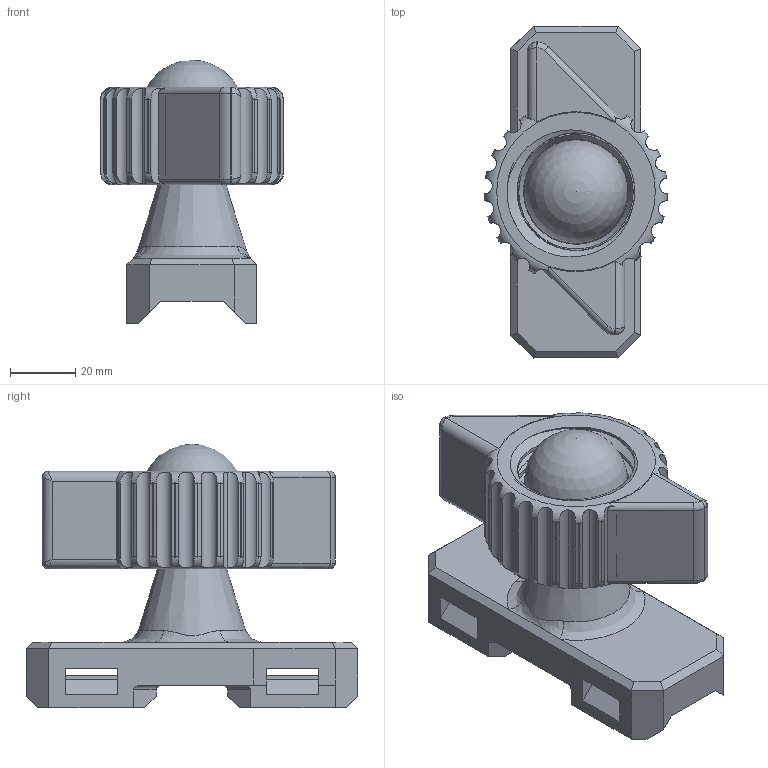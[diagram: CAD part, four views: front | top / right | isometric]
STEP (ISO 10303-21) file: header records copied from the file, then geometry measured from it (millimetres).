
FILE_DESCRIPTION(('HOOPS Exchange Step'),'2;1');
FILE_NAME('/private/var/mobile/Containers/Data/Application/FEB09317-4D42-4244-84D5-4744026CA7E9/tmp/export/temp_export','2021-11-26T22:09:58+01:00',('mobile'),('Shapr3D Limited'),'HOOPS Exchange 2021.1','Shapr3D','Authorized');
FILE_SCHEMA( ('AP203_CONFIGURATION_CONTROLLED_3D_DESIGN_OF_MECHANICAL_PARTS_AND_ASSEMBLIES_MIM_LF') );
Length unit declared in the file: millimetre
Products named in the file (1): /private/var/mobile/Containers/Data/Application/FEB09317-4D42-4244-84D5-4744026CA7E9/tmp/5EEEFC3A-2488-448C-ACF5-DA99EA56618F.tmp
Bounding box: 56.23 x 102 x 81.03 mm (x, y, z)
Volume: 139169.7 mm3; surface area: 36424 mm2
Topology: 2 solids, 3 shells, 224 faces, 635 edges, 411 vertices
Faces by surface type: cylinder 112, plane 75, bspline 22, torus 10, sphere 3, offset 2
Full cylindrical faces by diameter (mm): 36.192 x2, 42.447 x3
Entity records: 32324 total; most frequent: CARTESIAN_POINT 26854, ORIENTED_EDGE 1260, DIRECTION 964, EDGE_CURVE 630, VERTEX_POINT 411, AXIS2_PLACEMENT_3D 337, VECTOR 290, LINE 290
